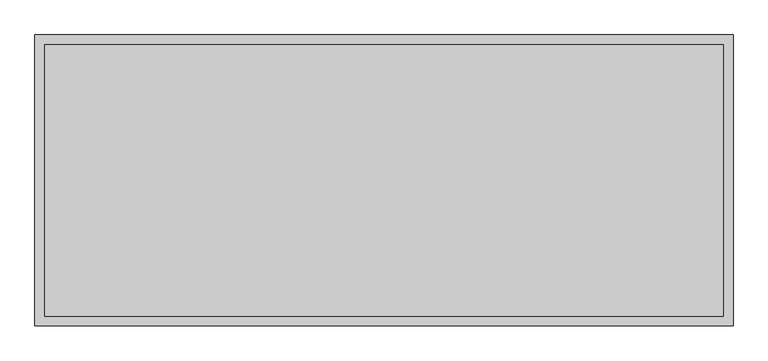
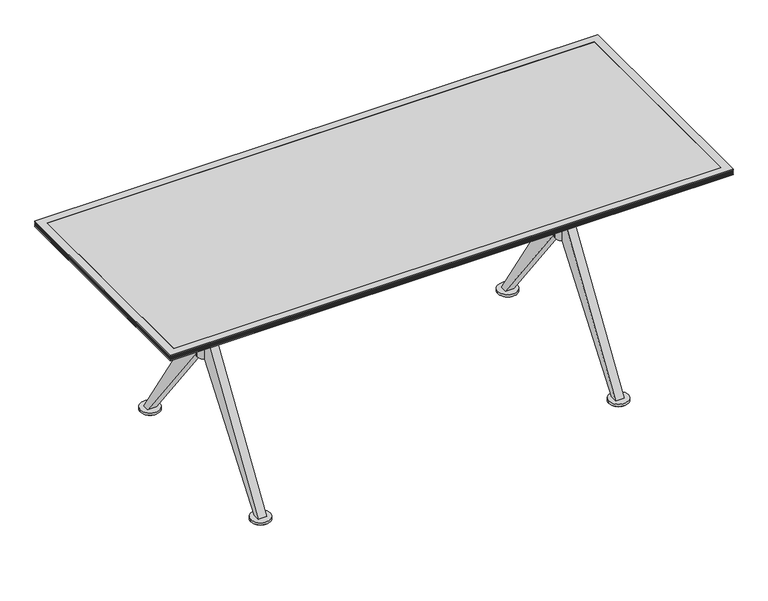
"""IFC4 building model written with IfcOpenShell, lengths in millimetres: furniture geometry, Coalesse_AM_Table_Conference_Ballet_Rectangular_XBase : Folding - 72L x 30W."""

import ifcopenshell
import ifcopenshell.guid

model = None  # the IFC model being written
_history = None  # IfcOwnerHistory: only IFC2X3 demands one
_inside = {}  # id of a spatial element -> (the spatial element, [elements in it])
_under = {}  # id of a project, library or spatial element -> (it, [spatial elements below it])
_declared = {}  # id of a project -> (the project, [libraries it declares])
_typed = {}  # id of a type object -> (the type object, [elements of that type])
_made_of = {}  # id of a material, layer set ... -> (it, [elements and type objects made of it])


def new_model(schema):
    """Start an empty IFC model of exactly this schema.

    Asked for "IFC4X3", IfcOpenShell would pick the latest addendum, in which some entities
    have other attributes; the version numbers below select the first issue.
    IFC2X3 requires an IfcOwnerHistory on every rooted entity: one is made here for all.
    """
    global model, _history
    if schema == "IFC4X3":
        model = ifcopenshell.file(schema_version=(4, 3, 0, 0))
    else:
        model = ifcopenshell.file(schema=schema)
    _inside.clear()
    _under.clear()
    _declared.clear()
    _typed.clear()
    _made_of.clear()
    _history = None
    if model.schema == "IFC2X3":
        org = make("IfcOrganization", Name="unknown")
        user = make(
            "IfcPersonAndOrganization",
            ThePerson=make("IfcPerson", FamilyName="unknown"),
            TheOrganization=org,
        )
        app = make(
            "IfcApplication",
            ApplicationDeveloper=org,
            Version="unknown",
            ApplicationFullName="unknown",
            ApplicationIdentifier="unknown",
        )
        _history = make(
            "IfcOwnerHistory",
            OwningUser=user,
            OwningApplication=app,
            ChangeAction="ADDED",
            CreationDate=0,
        )
    return model


def make(cls, **values):
    """One entity of the class cls with the attributes given. An attribute that is None is left unset."""
    return model.create_entity(
        cls, **{name: value for name, value in values.items() if value is not None}
    )


def rooted(cls, **values):
    """An entity with a GlobalId (a new one), such as an element, a storey or a relation."""
    return make(cls, GlobalId=ifcopenshell.guid.new(), OwnerHistory=_history, **values)


def si_unit(unit_type, name, prefix=None):
    """IfcSIUnit, for example si_unit("LENGTHUNIT", "METRE", prefix="MILLI")."""
    return make("IfcSIUnit", UnitType=unit_type, Prefix=prefix, Name=name)


def assignment(units):
    """IfcUnitAssignment: the units of a project."""
    return None if units is None else make("IfcUnitAssignment", Units=units)


def point(xyz):
    """IfcCartesianPoint."""
    return None if xyz is None else make("IfcCartesianPoint", Coordinates=xyz)


def direction(xyz):
    """IfcDirection."""
    return None if xyz is None else make("IfcDirection", DirectionRatios=xyz)


def frame(location, z_axis=None, x_axis=None):
    """IfcAxis2Placement3D, a coordinate frame: its origin and axes. An axis left out is left unset."""
    return make(
        "IfcAxis2Placement3D",
        Location=point(location),
        Axis=direction(z_axis),
        RefDirection=direction(x_axis),
    )


def frame_2d(location, x_axis=None):
    """IfcAxis2Placement2D, a coordinate frame in the plane: its origin and x axis."""
    return make(
        "IfcAxis2Placement2D", Location=point(location), RefDirection=direction(x_axis)
    )


def origin():
    """The frame at (0, 0, 0) with its axes left unset."""
    return frame((0.0, 0.0, 0.0))


def origin_with_axes():
    """The frame at (0, 0, 0) with the z axis (0, 0, 1) and the x axis (1, 0, 0) written out."""
    return frame((0.0, 0.0, 0.0), z_axis=(0.0, 0.0, 1.0), x_axis=(1.0, 0.0, 0.0))


def place(relative_to, where):
    """IfcLocalPlacement: puts the frame where relative to a parent placement (None: the world)."""
    return make(
        "IfcLocalPlacement", PlacementRelTo=relative_to, RelativePlacement=where
    )


def context(
    kind, dimensions, precision=None, world=None, true_north=None, identifier=None
):
    """IfcGeometricRepresentationContext, for example the 3D "Model" context."""
    return make(
        "IfcGeometricRepresentationContext",
        ContextIdentifier=identifier,
        ContextType=kind,
        CoordinateSpaceDimension=dimensions,
        Precision=precision,
        WorldCoordinateSystem=world,
        TrueNorth=true_north,
    )


def project(units=None, contexts=None):
    """IfcProject with its units and contexts."""
    return rooted(
        "IfcProject",
        Name="project",
        RepresentationContexts=contexts,
        UnitsInContext=assignment(units),
    )


def spatial(cls, under=None, at=None, **own):
    """A site, building, storey or space (cls), placed at a placement, below another one or the project."""
    s = rooted(cls, ObjectPlacement=at, **own)
    if under is not None:
        _under.setdefault(under.id(), (under, []))[1].append(s)
    return s


def polyline(points):
    """IfcPolyline through the points."""
    return make("IfcPolyline", Points=[point(p) for p in points])


def circle_curve(where, radius):
    """IfcCircle in the frame where."""
    return make("IfcCircle", Position=where, Radius=radius)


def trimmed(basis, trim1, trim2, sense, master):
    """IfcTrimmedCurve: the piece of a basis curve between two trims."""
    return make(
        "IfcTrimmedCurve",
        BasisCurve=basis,
        Trim1=trim1,
        Trim2=trim2,
        SenseAgreement=sense,
        MasterRepresentation=master,
    )


def segment(curve, same_sense, transition):
    """IfcCompositeCurveSegment."""
    return make(
        "IfcCompositeCurveSegment",
        Transition=transition,
        SameSense=same_sense,
        ParentCurve=curve,
    )


def composite_curve(segments, self_intersect=None):
    """IfcCompositeCurve: segments joined end to end."""
    return make("IfcCompositeCurve", Segments=segments, SelfIntersect=self_intersect)


def outline(outer, holes=None, kind="AREA"):
    """IfcArbitraryClosedProfileDef: a profile drawn as a closed curve; with holes, ...WithVoids."""
    if holes is None:
        return make("IfcArbitraryClosedProfileDef", ProfileType=kind, OuterCurve=outer)
    return make(
        "IfcArbitraryProfileDefWithVoids",
        ProfileType=kind,
        OuterCurve=outer,
        InnerCurves=holes,
    )


def extrude(swept, where, along, depth):
    """IfcExtrudedAreaSolid: the profile swept, set in the frame where, extruded along a direction by depth."""
    return make(
        "IfcExtrudedAreaSolid",
        SweptArea=swept,
        Position=where,
        ExtrudedDirection=direction(along),
        Depth=depth,
    )


def faces_of(points, faces, orient=None, outer=None):
    """IfcFace entities. A face is a list of loops; a loop is a list of indices into points, from 0.

    orient and outer hold one flag for each loop. By default every Orientation is true, the
    first loop of a face is its IfcFaceOuterBound and the others are IfcFaceBound.
    """
    made = []
    for i, loops in enumerate(faces):
        bounds = []
        for j, loop in enumerate(loops):
            is_outer = j == 0 if outer is None else outer[i][j]
            bounds.append(
                make(
                    "IfcFaceOuterBound" if is_outer else "IfcFaceBound",
                    Bound=make("IfcPolyLoop", Polygon=[points[k] for k in loop]),
                    Orientation=True if orient is None else orient[i][j],
                )
            )
        made.append(make("IfcFace", Bounds=bounds))
    return made


def faceted_brep(points, faces, orient=None, outer=None, voids=None):
    """IfcFacetedBrep: a solid bounded by flat faces; with voids (closed shells), ...WithVoids."""
    shared = [point(p) for p in points]
    hull = make("IfcClosedShell", CfsFaces=faces_of(shared, faces, orient, outer))
    if voids is None:
        return make("IfcFacetedBrep", Outer=hull)
    return make(
        "IfcFacetedBrepWithVoids",
        Outer=hull,
        Voids=[
            make(cls, CfsFaces=faces_of(shared, fs, o, b)) for cls, fs, o, b in voids
        ],
    )


def shape(context_of_items, identifier, shape_type, items):
    """IfcShapeRepresentation: the items that make up one representation, for example the "Body"."""
    return make(
        "IfcShapeRepresentation",
        ContextOfItems=context_of_items,
        RepresentationIdentifier=identifier,
        RepresentationType=shape_type,
        Items=items,
    )


def source(mapping_origin, context_of_items, identifier, shape_type, items):
    """IfcRepresentationMap: a shape defined once, which mapped items show again and again."""
    return make(
        "IfcRepresentationMap",
        MappingOrigin=mapping_origin,
        MappedRepresentation=shape(context_of_items, identifier, shape_type, items),
    )


def transform(
    local_origin,
    x_axis=None,
    y_axis=None,
    z_axis=None,
    scale=None,
    scale2=None,
    scale3=None,
    uniform=True,
):
    """IfcCartesianTransformationOperator3D, or its non-uniform kind. x_axis, y_axis, z_axis: its Axis1, 2, 3."""
    if uniform:
        return make(
            "IfcCartesianTransformationOperator3D",
            Axis1=direction(x_axis),
            Axis2=direction(y_axis),
            LocalOrigin=point(local_origin),
            Scale=scale,
            Axis3=direction(z_axis),
        )
    return make(
        "IfcCartesianTransformationOperator3DnonUniform",
        Axis1=direction(x_axis),
        Axis2=direction(y_axis),
        LocalOrigin=point(local_origin),
        Scale=scale,
        Axis3=direction(z_axis),
        Scale2=scale2,
        Scale3=scale3,
    )


def mapped(mapping_source, mapping_target):
    """IfcMappedItem: shows the shape of a source again, moved by a transform."""
    return make(
        "IfcMappedItem", MappingSource=mapping_source, MappingTarget=mapping_target
    )


def made_of(thing, what):
    """Note that an element or type object is made of a material, layer set ...; save() writes the relation."""
    if what is not None:
        _made_of.setdefault(what.id(), (what, []))[1].append(thing)
    return thing


def element(
    cls,
    number,
    at=None,
    inside=None,
    cuts=None,
    type_object=None,
    material=None,
    context=None,
    identifier="Body",
    shape_type=None,
    held_by="IfcProductDefinitionShape",
    body=None,
    shapes=None,
    **own,
):
    """One element of the class cls, such as IfcWall. Its Tag is "e" and its number.

    at: its placement. inside: the storey or other place that contains it. cuts: it is an
    opening in that element (IfcRelVoidsElement). A single representation is given by context,
    identifier, shape_type and body (its items); several are given by shapes. held_by: the class
    of the entity that holds the representations. save() writes the other relations.
    """
    e = rooted(cls, Tag="e%d" % number, ObjectPlacement=at, **own)
    if body is not None:
        shapes = [shape(context, identifier, shape_type, body)]
    if shapes is not None:
        e.Representation = make(held_by, Representations=shapes)
    if inside is not None:
        _inside.setdefault(inside.id(), (inside, []))[1].append(e)
    if cuts is not None:
        rooted(
            "IfcRelVoidsElement", RelatingBuildingElement=cuts, RelatedOpeningElement=e
        )
    if type_object is not None:
        _typed.setdefault(type_object.id(), (type_object, []))[1].append(e)
    return made_of(e, material)


def aggregate(whole, parts):
    """IfcRelAggregates: a whole, such as a stair, and the parts it consists of."""
    return rooted("IfcRelAggregates", RelatingObject=whole, RelatedObjects=parts)


def save(model, path):
    """Write the relations noted so far, then the file.

    IfcRelAggregates (storeys below a building ...), IfcRelContainedInSpatialStructure (elements
    in a storey), IfcRelDefinesByType, IfcRelAssociatesMaterial and IfcRelDeclares: one each for
    every whole, place, type object, material and project.
    """
    for whole, parts in _under.values():
        aggregate(whole, parts)
    for where, things in _inside.values():
        rooted(
            "IfcRelContainedInSpatialStructure",
            RelatedElements=things,
            RelatingStructure=where,
        )
    for kind, things in _typed.values():
        rooted("IfcRelDefinesByType", RelatedObjects=things, RelatingType=kind)
    for what, things in _made_of.values():
        rooted("IfcRelAssociatesMaterial", RelatedObjects=things, RelatingMaterial=what)
    for by, libraries in _declared.values():
        rooted("IfcRelDeclares", RelatingContext=by, RelatedDefinitions=libraries)
    model.write(path)


def plane_surface(at):
    """IfcPlane: the flat surface through the origin of the frame at, square to its z axis."""
    return make("IfcPlane", Position=at)


def cylinder_surface(at, radius):
    """IfcCylindricalSurface: all points at the distance radius from the z axis of the frame at."""
    return make("IfcCylindricalSurface", Position=at, Radius=radius)


def advanced_brep(points, edges, surfaces, faces):
    """IfcAdvancedBrep: a solid bounded by faces that lie on surfaces and meet in shared edges.

    An edge is (start, end): straight between two places in points (the first is 0);
    or (start, end, curve); or (start, end, curve, False) where it runs against its curve.
    A face is (place in surfaces, loops), or (place, loops, False) where it looks against
    its surface's normal. A loop lists edges by number (the first is 1), with a minus sign
    where the edge is run from its end to its start. The first loop is the outer one.
    """
    corners = [point(p) for p in points]
    vertices = [make("IfcVertexPoint", VertexGeometry=c) for c in corners]
    made = []
    for start, end, *more in edges:
        made.append(
            make(
                "IfcEdgeCurve",
                EdgeStart=vertices[start],
                EdgeEnd=vertices[end],
                EdgeGeometry=more[0] if more else make("IfcPolyline", Points=[corners[start], corners[end]]),
                SameSense=more[1] if len(more) > 1 else True,
            )
        )
    hull = []
    for where, loops, *sense in faces:
        bounds = []
        for j, loop in enumerate(loops):
            ring = [make("IfcOrientedEdge", EdgeElement=made[abs(k) - 1], Orientation=k > 0) for k in loop]
            bounds.append(
                make(
                    "IfcFaceOuterBound" if j == 0 else "IfcFaceBound",
                    Bound=make("IfcEdgeLoop", EdgeList=ring),
                    Orientation=True,
                )
            )
        hull.append(make("IfcAdvancedFace", Bounds=bounds, FaceSurface=surfaces[where], SameSense=sense[0] if sense else True))
    return make("IfcAdvancedBrep", Outer=make("IfcClosedShell", CfsFaces=hull))


def furniture_6d840f3d(model_context):
    return source(origin(), model_context, "Body", "SolidModel", [
        extrude(outline(composite_curve([segment(trimmed(circle_curve(frame_2d((-581.0365536, 310.3799254)), 25.4), [point((-606.4365536, 310.3799254))], [point((-555.6365536, 310.3799254))], False, "CARTESIAN"), True, "CONTINUOUS"), segment(trimmed(circle_curve(frame_2d((-581.0365536, 310.3799254)), 25.4), [point((-555.6365536, 310.3799254))], [point((-606.4365536, 310.3799254))], False, "CARTESIAN"), True, "CONTINUOUS")], self_intersect=False)), origin_with_axes(), (0.0, 0.0, 1.0), 4.5427804),
        extrude(outline(composite_curve([segment(trimmed(circle_curve(frame_2d((-581.6541541, -311.83186)), 25.4), [point((-607.0541541, -311.83186))], [point((-556.2541541, -311.83186))], False, "CARTESIAN"), True, "CONTINUOUS"), segment(trimmed(circle_curve(frame_2d((-581.6541541, -311.83186)), 25.4), [point((-556.2541541, -311.83186))], [point((-607.0541541, -311.83186))], False, "CARTESIAN"), True, "CONTINUOUS")], self_intersect=False)), origin_with_axes(), (0.0, 0.0, 1.0), 4.5427804),
        extrude(outline(composite_curve([segment(trimmed(circle_curve(frame_2d((581.0365536, 310.388)), 25.4), [point((555.6365536, 310.388))], [point((606.4365536, 310.388))], False, "CARTESIAN"), True, "CONTINUOUS"), segment(trimmed(circle_curve(frame_2d((581.0365536, 310.388)), 25.4), [point((606.4365536, 310.388))], [point((555.6365536, 310.388))], False, "CARTESIAN"), True, "CONTINUOUS")], self_intersect=False)), origin_with_axes(), (0.0, 0.0, 1.0), 4.5427804),
        extrude(outline(composite_curve([segment(trimmed(circle_curve(frame_2d((581.6541541, -311.83186)), 25.4), [point((556.2541541, -311.83186))], [point((607.0541541, -311.83186))], False, "CARTESIAN"), True, "CONTINUOUS"), segment(trimmed(circle_curve(frame_2d((581.6541541, -311.83186)), 25.4), [point((607.0541541, -311.83186))], [point((556.2541541, -311.83186))], False, "CARTESIAN"), True, "CONTINUOUS")], self_intersect=False)), origin_with_axes(), (0.0, 0.0, 1.0), 4.5427804),
        extrude(outline(composite_curve([segment(trimmed(circle_curve(frame_2d((-581.0365536, 310.3799254)), 31.7510292), [point((-612.7875828, 310.3799254))], [point((-549.2855244, 310.3799254))], False, "CARTESIAN"), True, "CONTINUOUS"), segment(trimmed(circle_curve(frame_2d((-581.0365536, 310.3799254)), 31.7510292), [point((-549.2855244, 310.3799254))], [point((-612.7875828, 310.3799254))], False, "CARTESIAN"), True, "CONTINUOUS")], self_intersect=False)), frame((0.0, 0.0, 4.5427804), z_axis=(0.0, 0.0, 1.0), x_axis=(1.0, 0.0, 0.0)), (0.0, 0.0, 1.0), 8.1572196),
        extrude(outline(composite_curve([segment(trimmed(circle_curve(frame_2d((-581.6541541, -311.83186)), 31.75), [point((-613.4041541, -311.83186))], [point((-549.9041541, -311.83186))], False, "CARTESIAN"), True, "CONTINUOUS"), segment(trimmed(circle_curve(frame_2d((-581.6541541, -311.83186)), 31.75), [point((-549.9041541, -311.83186))], [point((-613.4041541, -311.83186))], False, "CARTESIAN"), True, "CONTINUOUS")], self_intersect=False)), frame((0.0, 0.0, 4.5427804), z_axis=(0.0, 0.0, 1.0), x_axis=(1.0, 0.0, 0.0)), (0.0, 0.0, 1.0), 8.1572196),
        extrude(outline(composite_curve([segment(trimmed(circle_curve(frame_2d((581.0365536, 310.388)), 31.7510292), [point((549.2855244, 310.388))], [point((612.7875828, 310.388))], False, "CARTESIAN"), True, "CONTINUOUS"), segment(trimmed(circle_curve(frame_2d((581.0365536, 310.388)), 31.7510292), [point((612.7875828, 310.388))], [point((549.2855244, 310.388))], False, "CARTESIAN"), True, "CONTINUOUS")], self_intersect=False)), frame((0.0, 0.0, 4.5427804), z_axis=(0.0, 0.0, 1.0), x_axis=(1.0, 0.0, 0.0)), (0.0, 0.0, 1.0), 8.1572196),
        extrude(outline(composite_curve([segment(trimmed(circle_curve(frame_2d((581.6541541, -311.83186)), 31.75), [point((549.9041541, -311.83186))], [point((613.4041541, -311.83186))], False, "CARTESIAN"), True, "CONTINUOUS"), segment(trimmed(circle_curve(frame_2d((581.6541541, -311.83186)), 31.75), [point((613.4041541, -311.83186))], [point((549.9041541, -311.83186))], False, "CARTESIAN"), True, "CONTINUOUS")], self_intersect=False)), frame((0.0, 0.0, 4.5427804), z_axis=(0.0, 0.0, 1.0), x_axis=(1.0, 0.0, 0.0)), (0.0, 0.0, 1.0), 8.1572196),
        extrude(outline(polyline([(21.0343629, 381.0), (21.0343629, 482.7111245), (322.2625018, 12.7), (299.8750745, 12.7), (21.0343629, 381.0)])), frame((566.7375, 0.0, 0.0), z_axis=(1.0, 0.0, 0.0), x_axis=(0.0, 1.0, 0.0)), (0.0, 0.0, 1.0), 28.575),
        extrude(outline(polyline([(-21.0343629, 381.0), (-299.8750745, 12.7), (-322.2625018, 12.7), (-21.0343629, 482.7111245), (-21.0343629, 381.0)])), frame((566.7375, 0.0, 0.0), z_axis=(1.0, 0.0, 0.0), x_axis=(0.0, 1.0, 0.0)), (0.0, 0.0, 1.0), 28.575),
        extrude(outline(polyline([(21.0343629, 381.0), (21.0343629, 482.7111245), (322.2625018, 12.7), (299.8750745, 12.7), (21.0343629, 381.0)])), frame((-595.3125, 0.0, 0.0), z_axis=(1.0, 0.0, 0.0), x_axis=(0.0, 1.0, 0.0)), (0.0, 0.0, 1.0), 28.5877172),
        extrude(outline(polyline([(-21.0343629, 381.0), (-299.8750745, 12.7), (-322.2625018, 12.7), (-21.0343629, 482.7111245), (-21.0343629, 381.0)])), frame((-595.3125, 0.0, 0.0), z_axis=(1.0, 0.0, 0.0), x_axis=(0.0, 1.0, 0.0)), (0.0, 0.0, 1.0), 28.5877172),
        extrude(outline(polyline([(-21.0343629, 577.7388634), (-333.375, 698.5000242), (-305.990625, 698.5000242), (-21.0343629, 641.3500242), (-21.0343629, 577.7388634)])), frame((566.7375, 0.0, 0.0), z_axis=(1.0, 0.0, 0.0), x_axis=(0.0, 1.0, 0.0)), (0.0, 0.0, 1.0), 28.575),
        extrude(outline(polyline([(21.0343629, 577.7388634), (21.0343629, 641.3501773), (305.990625, 698.5000242), (333.375, 698.5000242), (21.0343629, 577.7388634)])), frame((566.7375, 0.0, 0.0), z_axis=(1.0, 0.0, 0.0), x_axis=(0.0, 1.0, 0.0)), (0.0, 0.0, 1.0), 28.575),
        extrude(outline(polyline([(-21.0343629, 577.7388634), (-333.375, 698.5000242), (-305.990625, 698.5000242), (-21.0343629, 641.3500242), (-21.0343629, 577.7388634)])), frame((-595.3125, 0.0, 0.0), z_axis=(1.0, 0.0, 0.0), x_axis=(0.0, 1.0, 0.0)), (0.0, 0.0, 1.0), 28.5877172),
        extrude(outline(polyline([(21.0343629, 577.7388634), (21.0343629, 641.3501773), (305.990625, 698.5000242), (333.375, 698.5000242), (21.0343629, 577.7388634)])), frame((-595.3125, 0.0, 0.0), z_axis=(1.0, 0.0, 0.0), x_axis=(0.0, 1.0, 0.0)), (0.0, 0.0, 1.0), 28.5877172),
        advanced_brep(
        [(559.6154775, 12.6999879, 492.1250121), (-559.6154775, 12.6999879, 492.1250121), (-559.6154775, 12.6999879, 568.3250121), (559.6154775, 12.6999879, 568.3250121), (-556.2125298, 0.0, 568.3250121), (-559.6154775, -12.6999879, 568.3250121), (559.6154775, -12.6999879, 568.3250121), (556.2125298, 0.0, 568.3250121), (-559.6154775, -12.6999879, 492.1250121), (559.6154775, -12.6999879, 492.1250121), (556.2125298, 0.0, 492.1250121), (-556.2125298, 0.0, 492.1250121), (-607.0125298, 0.0, 641.3500242), (-556.2125298, 0.0, 641.3500242), (556.2125298, 0.0, 641.3500242), (607.0125298, 0.0, 641.3500242), (-607.0125298, 0.0, 381.0), (-556.2125298, 0.0, 381.0), (556.2125298, 0.0, 381.0), (607.0125298, 0.0, 381.0)],
        [
            (0, 1),
            (1, 2),
            (2, 3),
            (3, 0),
            (2, 4, circle_curve(frame((-581.6125298, 0.0, 568.3250121), z_axis=(0.0, 0.0, -1.0), x_axis=(1.0, 0.0, 0.0)), 25.4)),
            (4, 5, circle_curve(frame((-581.6125298, 0.0, 568.3250121), z_axis=(0.0, 0.0, -1.0), x_axis=(1.0, 0.0, 0.0)), 25.4)),
            (5, 6),
            (6, 7, circle_curve(frame((581.6125298, 0.0, 568.3250121), z_axis=(0.0, 0.0, -1.0), x_axis=(1.0, 0.0, 0.0)), 25.4)),
            (7, 3, circle_curve(frame((581.6125298, 0.0, 568.3250121), z_axis=(0.0, 0.0, -1.0), x_axis=(1.0, 0.0, 0.0)), 25.4)),
            (5, 8),
            (8, 9),
            (9, 6),
            (0, 10, circle_curve(frame((581.6125298, 0.0, 492.1250121), z_axis=(0.0, 0.0, 1.0), x_axis=(1.0, 0.0, 0.0)), 25.4)),
            (10, 9, circle_curve(frame((581.6125298, 0.0, 492.1250121), z_axis=(0.0, 0.0, 1.0), x_axis=(1.0, 0.0, 0.0)), 25.4)),
            (8, 11, circle_curve(frame((-581.6125298, 0.0, 492.1250121), z_axis=(0.0, 0.0, 1.0), x_axis=(1.0, 0.0, 0.0)), 25.4)),
            (11, 1, circle_curve(frame((-581.6125298, 0.0, 492.1250121), z_axis=(0.0, 0.0, 1.0), x_axis=(1.0, 0.0, 0.0)), 25.4)),
            (12, 13, circle_curve(frame((-581.6125298, 0.0, 641.3500242), z_axis=(0.0, 0.0, 1.0), x_axis=(1.0, 0.0, 0.0)), 25.4)),
            (13, 12, circle_curve(frame((-581.6125298, 0.0, 641.3500242), z_axis=(0.0, 0.0, 1.0), x_axis=(1.0, 0.0, 0.0)), 25.4)),
            (14, 15, circle_curve(frame((581.6125298, 0.0, 641.3500242), z_axis=(0.0, 0.0, 1.0), x_axis=(1.0, 0.0, 0.0)), 25.4)),
            (15, 14, circle_curve(frame((581.6125298, 0.0, 641.3500242), z_axis=(0.0, 0.0, 1.0), x_axis=(1.0, 0.0, 0.0)), 25.4)),
            (16, 17, circle_curve(frame((-581.6125298, 0.0, 381.0), z_axis=(0.0, 0.0, -1.0), x_axis=(1.0, 0.0, 0.0)), 25.4)),
            (17, 16, circle_curve(frame((-581.6125298, 0.0, 381.0), z_axis=(0.0, 0.0, -1.0), x_axis=(1.0, 0.0, 0.0)), 25.4)),
            (18, 19, circle_curve(frame((581.6125298, 0.0, 381.0), z_axis=(0.0, 0.0, -1.0), x_axis=(1.0, 0.0, 0.0)), 25.4)),
            (19, 18, circle_curve(frame((581.6125298, 0.0, 381.0), z_axis=(0.0, 0.0, -1.0), x_axis=(1.0, 0.0, 0.0)), 25.4)),
            (12, 16),
            (17, 11),
            (4, 13),
            (14, 7),
            (10, 18),
            (19, 15),
        ],
        [
            plane_surface(frame((566.7375, 12.6999879, 492.1250121), z_axis=(0.0, 1.0, 0.0), x_axis=(-1.0, 0.0, 0.0))),
            plane_surface(frame((566.7375, 12.6999879, 568.3250121), z_axis=(0.0, 0.0, 1.0), x_axis=(-1.0, 0.0, 0.0))),
            plane_surface(frame((566.7375, -12.6999879, 568.3250121), z_axis=(0.0, -1.0, 0.0), x_axis=(-1.0, 0.0, 0.0))),
            plane_surface(frame((566.7375, -12.6999879, 492.1250121), z_axis=(0.0, 0.0, -1.0), x_axis=(-1.0, 0.0, 0.0))),
            plane_surface(frame((-556.2125298, 0.0, 641.3500242), z_axis=(0.0, 0.0, 1.0), x_axis=(0.0, 1.0, 0.0))),
            plane_surface(frame((-556.2125298, 0.0, 381.0), z_axis=(0.0, 0.0, -1.0), x_axis=(0.0, -1.0, 0.0))),
            cylinder_surface(frame((-581.6125298, 0.0, 381.0), z_axis=(0.0, 0.0, 1.0), x_axis=(1.0, 0.0, 0.0)), 25.4),
            cylinder_surface(frame((581.6125298, 0.0, 0.0), z_axis=(0.0, 0.0, 1.0), x_axis=(1.0, 0.0, 0.0)), 25.4),
        ],
        [
            (0, [[1, 2, 3, 4]]),
            (1, [[-3, 5, 6, 7, 8, 9]]),
            (2, [[-7, 10, 11, 12]]),
            (3, [[-1, 13, 14, -11, 15, 16]]),
            (4, [[17, 18]]),
            (4, [[19, 20]]),
            (5, [[21, 22]]),
            (5, [[23, 24]]),
            (6, [[-17, 25, -22, 26, -15, -10, -6, 27]]),
            (6, [[-18, -27, -5, -2, -16, -26, -21, -25]]),
            (7, [[-19, 28, -8, -12, -14, 29, -24, 30]]),
            (7, [[-20, -30, -23, -29, -13, -4, -9, -28]]),
        ],
    ),
        faceted_brep([(-914.4003633, 381.0, 704.85), (-889.0003876, 355.6000242, 698.5000242), (-889.0003876, -355.5999516, 698.5000242), (-914.4003633, -380.9999273, 704.85), (-914.4003633, 381.0, 708.0250242), (-914.4003633, -380.9999273, 708.0250242), (-911.2253755, 377.8250121, 709.6125), (-911.2253755, -377.8249394, 709.6125), (-914.4003633, 381.0, 711.1999758), (-914.4003633, -380.9999273, 711.1999758), (-911.2253755, 377.8250121, 712.7875242), (-911.2253755, -377.8249394, 712.7875242), (-914.4003633, 381.0, 714.375), (-914.4003633, -380.9999273, 714.375), (-911.2253755, 377.8250121, 715.9624758), (-911.2253755, -377.8249394, 715.9624758), (-914.4003633, 381.0, 717.5500242), (-914.4003633, -380.9999273, 717.5500242), (-911.2253755, 377.8250121, 719.1375), (-911.2253755, -377.8249394, 719.1375), (-914.4003633, 381.0, 720.7249758), (-914.4003633, -380.9999273, 720.7249758), (-914.4003633, 381.0, 723.9), (-914.4003633, -380.9999273, 723.9), (-889.0003876, 355.6000242, 723.9), (-889.0003876, -355.5999516, 723.9), (889.0, -355.5999516, 698.5000242), (914.3999758, -380.9999273, 704.85), (914.3999758, -380.9999273, 708.0250242), (911.2249879, -377.8249394, 709.6125), (914.3999758, -380.9999273, 711.1999758), (911.2249879, -377.8249394, 712.7875242), (914.3999758, -380.9999273, 714.375), (911.2249879, -377.8249394, 715.9624758), (914.3999758, -380.9999273, 717.5500242), (911.2249879, -377.8249394, 719.1375), (914.3999758, -380.9999273, 720.7249758), (914.3999758, -380.9999273, 723.9), (889.0, -355.5999516, 723.9), (889.0, 355.6000242, 698.5000242), (914.3999758, 381.0, 704.85), (914.3999758, 381.0, 708.0250242), (911.2249879, 377.8250121, 709.6125), (914.3999758, 381.0, 711.1999758), (911.2249879, 377.8250121, 712.7875242), (914.3999758, 381.0, 714.375), (911.2249879, 377.8250121, 715.9624758), (914.3999758, 381.0, 717.5500242), (911.2249879, 377.8250121, 719.1375), (914.3999758, 381.0, 720.7249758), (914.3999758, 381.0, 723.9), (889.0, 355.6000242, 723.9)], [[[0, 1, 2, 3]], [[4, 0, 3, 5]], [[6, 4, 5, 7]], [[8, 6, 7, 9]], [[10, 8, 9, 11]], [[12, 10, 11, 13]], [[14, 12, 13, 15]], [[16, 14, 15, 17]], [[18, 16, 17, 19]], [[20, 18, 19, 21]], [[22, 20, 21, 23]], [[1, 24, 25, 2]], [[3, 2, 26, 27]], [[5, 3, 27, 28]], [[7, 5, 28, 29]], [[9, 7, 29, 30]], [[11, 9, 30, 31]], [[13, 11, 31, 32]], [[15, 13, 32, 33]], [[17, 15, 33, 34]], [[19, 17, 34, 35]], [[21, 19, 35, 36]], [[23, 21, 36, 37]], [[2, 25, 38, 26]], [[27, 26, 39, 40]], [[28, 27, 40, 41]], [[29, 28, 41, 42]], [[30, 29, 42, 43]], [[31, 30, 43, 44]], [[32, 31, 44, 45]], [[33, 32, 45, 46]], [[34, 33, 46, 47]], [[35, 34, 47, 48]], [[36, 35, 48, 49]], [[37, 36, 49, 50]], [[26, 38, 51, 39]], [[40, 39, 1, 0]], [[41, 40, 0, 4]], [[42, 41, 4, 6]], [[43, 42, 6, 8]], [[44, 43, 8, 10]], [[45, 44, 10, 12]], [[46, 45, 12, 14]], [[47, 46, 14, 16]], [[48, 47, 16, 18]], [[49, 48, 18, 20]], [[50, 49, 20, 22]], [[23, 37, 50, 22], [24, 51, 38, 25]], [[39, 51, 24, 1]]]),
        extrude(outline(polyline([(889.0, 355.6000242), (889.0, -355.5999516), (-889.0003876, -355.5999516), (-889.0003876, 355.6000242), (889.0, 355.6000242)])), frame((0.0, 0.0, 704.85), z_axis=(0.0, 0.0, 1.0), x_axis=(1.0, 0.0, 0.0)), (0.0, 0.0, 1.0), 19.05),
    ])


if __name__ == "__main__":
    model = new_model("IFC4")
    model_context = context("Model", 3, world=origin())
    ifc_project = project(units=[si_unit("LENGTHUNIT", "METRE", prefix="MILLI")], contexts=[model_context])
    site = spatial("IfcSite", under=ifc_project)
    building = spatial("IfcBuilding", under=site)
    placement = place(None, origin())
    furniture_shape = furniture_6d840f3d(model_context)
    element("IfcFurniture", 1, ObjectType="Coalesse_AM_Table_Conference_Ballet_Rectangular_XBase : Folding - 72L x 30W", at=placement, inside=building, context=model_context, shape_type="MappedRepresentation", body=[
        mapped(furniture_shape, transform((0.0, 0.0, 0.0), x_axis=(1.0, 0.0, 0.0), y_axis=(0.0, 1.0, 0.0), z_axis=(0.0, 0.0, 1.0))),
    ])
    save(model, "model.ifc")
